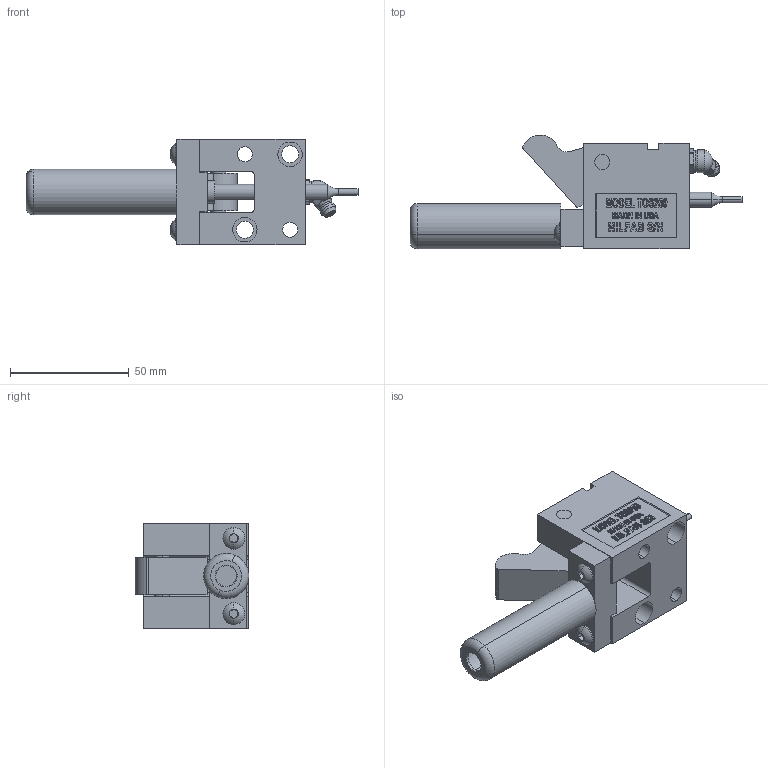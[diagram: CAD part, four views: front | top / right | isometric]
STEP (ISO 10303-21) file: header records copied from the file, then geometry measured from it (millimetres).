
FILE_DESCRIPTION (( 'STEP AP214' ), '1' );
FILE_NAME ('TOS25045-O.STEP', '2014-01-05T21:30:59', ( 'user' ), ( '' ), 'SwSTEP 2.0', 'SolidWorks 2009', '' );
FILE_SCHEMA (( 'AUTOMOTIVE_DESIGN' ));
Length unit declared in the file: inch
Products named in the file (10): TOS25045-O; GREASE ZERK; O-250-POINT; 250 PIVOT PIN; 250-OFFSET TRIGGER; OS250-CAGE; 10-SCREW; 250-O-STRAP; TOS250-BODY; OS250-PUNCH
Assembly tree (10 placements, depth 2):
  TOS25045-O
    GREASE ZERK
    TOS250-BODY
    250 PIVOT PIN
    250-OFFSET TRIGGER
    OS250-CAGE
    10-SCREW  x2
    O-250-POINT
    250-O-STRAP
    OS250-PUNCH
Bounding box: 139.7 x 47.85 x 44.45 mm (x, y, z)
Volume: 83176.3 mm3; surface area: 36186.9 mm2
Topology: 10 solids, 10 shells, 587 faces, 1519 edges, 998 vertices
Faces by surface type: plane 339, bspline 110, cylinder 86, torus 26, cone 26
Entity records: 24006 total; most frequent: CARTESIAN_POINT 10393, ORIENTED_EDGE 2954, DIRECTION 2321, EDGE_CURVE 1477, VERTEX_POINT 974, VECTOR 963, LINE 963, AXIS2_PLACEMENT_3D 679
